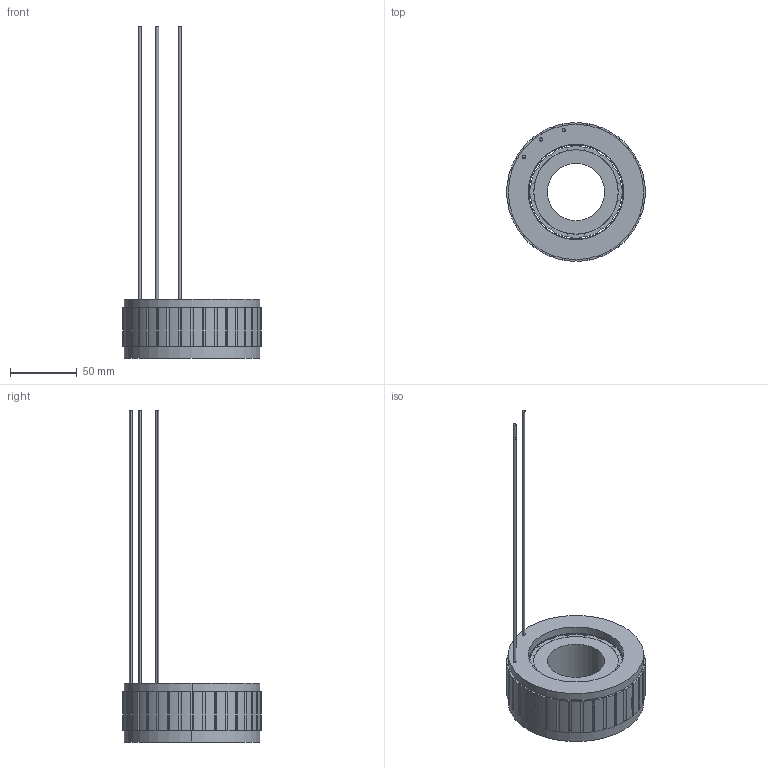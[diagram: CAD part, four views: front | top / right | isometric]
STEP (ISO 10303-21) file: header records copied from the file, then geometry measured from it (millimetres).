
FILE_DESCRIPTION (( 'STEP AP203' ), '1' );
FILE_NAME ('10429.STEP', '2023-05-06T09:50:09', ( 'muse' ), ( 'muse' ), 'SwSTEP 2.0', 'SolidWorks 2022', '' );
FILE_SCHEMA (( 'CONFIG_CONTROL_DESIGN' ));
Length unit declared in the file: millimetre
Products named in the file (1): 10429
Bounding box: 103.99 x 103.98 x 249.1 mm (x, y, z)
Volume: 222388.3 mm3; surface area: 156705 mm2
Topology: 55 solids, 55 shells, 1433 faces, 3996 edges, 2640 vertices
Faces by surface type: plane 829, cylinder 604
Entity records: 46135 total; most frequent: DIRECTION 8072, CARTESIAN_POINT 8070, ORIENTED_EDGE 7992, EDGE_CURVE 3996, LINE 2788, VECTOR 2788, AXIS2_PLACEMENT_3D 2642, VERTEX_POINT 2640
